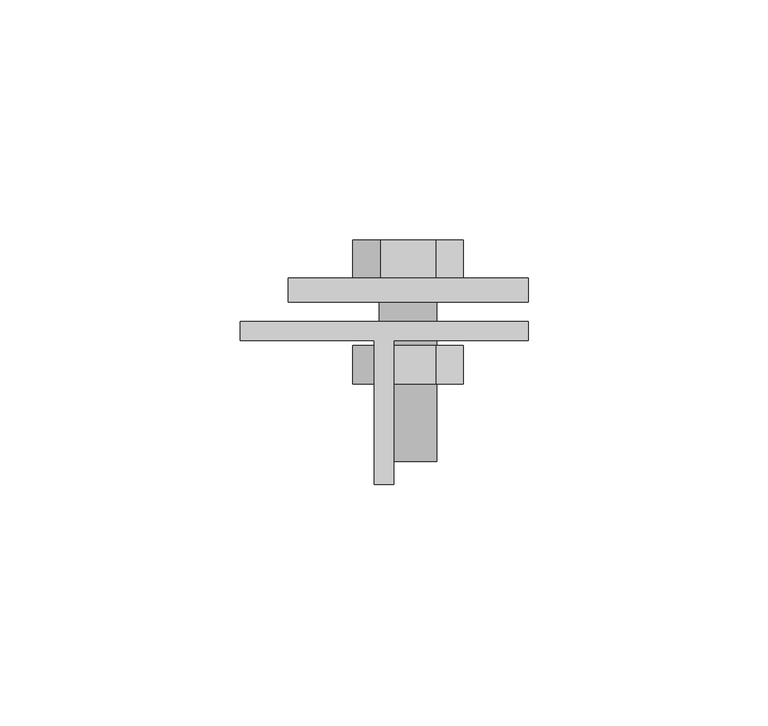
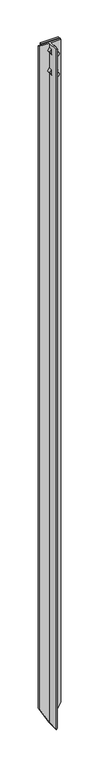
"""IFC4 building model written with IfcOpenShell, lengths in millimetres: proxy geometry, КНС_ЗаземлительВертикальныйПрофильный_DKC : NE1105_Горячеоцинкованная сталь_2м."""

from ifc_helpers import new_model, si_unit, frame, origin, place, context, project, spatial, circle_curve, faceted_brep, source, transform, mapped, element, save
from ifc_brep_helpers import plane_surface, cylinder_surface, advanced_brep


def security_devices_2d18d4dd(model_context):
    return source(origin(), model_context, "Body", "SolidModel", [
        advanced_brep(
        [(-20.0, 9.0, 1900.0), (-20.0, 9.0, 2000.0), (30.0, 9.0, 2000.0), (30.0, 9.0, 1900.0), (-0.7735027, 9.0, 1990.0), (-6.5470054, 9.0, 1980.0), (-0.7735027, 9.0, 1970.0), (10.7735027, 9.0, 1970.0), (16.5470054, 9.0, 1980.0), (10.7735027, 9.0, 1990.0), (-0.7735027, 9.0, 1930.0), (-6.5470054, 9.0, 1920.0), (-0.7735027, 9.0, 1910.0), (10.7735027, 9.0, 1910.0), (16.5470054, 9.0, 1920.0), (10.7735027, 9.0, 1930.0), (11.0, -29.1588598, 1980.0), (-1.0, -29.1588598, 1980.0), (11.0, -29.1588598, 1920.0), (-1.0, -29.1588598, 1920.0), (-1.0, -13.0, 1980.0), (11.0, -13.0, 1980.0), (11.0, -5.0, 1980.0), (-1.0, -5.0, 1980.0), (-1.0, 4.0, 1980.0), (11.0, 4.0, 1980.0), (-1.0, -13.0, 1920.0), (11.0, -13.0, 1920.0), (11.0, -5.0, 1920.0), (-1.0, -5.0, 1920.0), (-1.0, 4.0, 1920.0), (11.0, 4.0, 1920.0), (-6.5470054, -5.0, 1980.0), (-0.7735027, -5.0, 1990.0), (10.7735027, -5.0, 1990.0), (16.5470054, -5.0, 1980.0), (10.7735027, -5.0, 1970.0), (-0.7735027, -5.0, 1970.0), (-6.5470054, -5.0, 1920.0), (-0.7735027, -5.0, 1930.0), (10.7735027, -5.0, 1930.0), (16.5470054, -5.0, 1920.0), (10.7735027, -5.0, 1910.0), (-0.7735027, -5.0, 1910.0), (-6.5470054, -13.0, 1980.0), (-0.7735027, -13.0, 1970.0), (10.7735027, -13.0, 1970.0), (16.5470054, -13.0, 1980.0), (10.7735027, -13.0, 1990.0), (-0.7735027, -13.0, 1990.0), (-6.5470054, -13.0, 1920.0), (-0.7735027, -13.0, 1910.0), (10.7735027, -13.0, 1910.0), (16.5470054, -13.0, 1920.0), (10.7735027, -13.0, 1930.0), (-0.7735027, -13.0, 1930.0), (-20.0, 4.0, 1900.0), (30.0, 4.0, 1900.0), (30.0, 4.0, 2000.0), (-20.0, 4.0, 2000.0), (-6.5470054, 17.0, 1980.0), (-0.7735027, 17.0, 1990.0), (10.7735027, 17.0, 1990.0), (16.5470054, 17.0, 1980.0), (10.7735027, 17.0, 1970.0), (-0.7735027, 17.0, 1970.0), (-6.5470054, 17.0, 1920.0), (-0.7735027, 17.0, 1930.0), (10.7735027, 17.0, 1930.0), (16.5470054, 17.0, 1920.0), (10.7735027, 17.0, 1910.0), (-0.7735027, 17.0, 1910.0)],
        [
            (0, 1),
            (1, 2),
            (2, 3),
            (3, 0),
            (4, 5),
            (5, 6),
            (6, 7),
            (7, 8),
            (8, 9),
            (9, 4),
            (10, 11),
            (11, 12),
            (12, 13),
            (13, 14),
            (14, 15),
            (15, 10),
            (16, 17, circle_curve(frame((5.0, -29.1588598, 1980.0), z_axis=(0.0, -1.0, 0.0), x_axis=(-1.0, 0.0, 0.0)), 6.0)),
            (17, 16, circle_curve(frame((5.0, -29.1588598, 1980.0), z_axis=(0.0, -1.0, 0.0), x_axis=(-1.0, 0.0, 0.0)), 6.0)),
            (18, 19, circle_curve(frame((5.0, -29.1588598, 1920.0), z_axis=(0.0, -1.0, 0.0), x_axis=(-1.0, 0.0, 0.0)), 6.0)),
            (19, 18, circle_curve(frame((5.0, -29.1588598, 1920.0), z_axis=(0.0, -1.0, 0.0), x_axis=(-1.0, 0.0, 0.0)), 6.0)),
            (17, 20),
            (20, 21, circle_curve(frame((5.0, -13.0, 1980.0), z_axis=(0.0, -1.0, 0.0), x_axis=(-1.0, 0.0, 0.0)), 6.0)),
            (21, 16),
            (22, 23, circle_curve(frame((5.0, -5.0, 1980.0), z_axis=(0.0, 1.0, 0.0), x_axis=(-1.0, 0.0, 0.0)), 6.0)),
            (23, 24),
            (24, 25, circle_curve(frame((5.0, 4.0, 1980.0), z_axis=(0.0, -1.0, 0.0), x_axis=(-1.0, 0.0, 0.0)), 6.0)),
            (25, 22),
            (21, 20, circle_curve(frame((5.0, -13.0, 1980.0), z_axis=(0.0, -1.0, 0.0), x_axis=(-1.0, 0.0, 0.0)), 6.0)),
            (23, 22, circle_curve(frame((5.0, -5.0, 1980.0), z_axis=(0.0, 1.0, 0.0), x_axis=(-1.0, 0.0, 0.0)), 6.0)),
            (25, 24, circle_curve(frame((5.0, 4.0, 1980.0), z_axis=(0.0, -1.0, 0.0), x_axis=(-1.0, 0.0, 0.0)), 6.0)),
            (19, 26),
            (26, 27, circle_curve(frame((5.0, -13.0, 1920.0), z_axis=(0.0, -1.0, 0.0), x_axis=(-1.0, 0.0, 0.0)), 6.0)),
            (27, 18),
            (28, 29, circle_curve(frame((5.0, -5.0, 1920.0), z_axis=(0.0, 1.0, 0.0), x_axis=(-1.0, 0.0, 0.0)), 6.0)),
            (29, 30),
            (30, 31, circle_curve(frame((5.0, 4.0, 1920.0), z_axis=(0.0, -1.0, 0.0), x_axis=(-1.0, 0.0, 0.0)), 6.0)),
            (31, 28),
            (27, 26, circle_curve(frame((5.0, -13.0, 1920.0), z_axis=(0.0, -1.0, 0.0), x_axis=(-1.0, 0.0, 0.0)), 6.0)),
            (29, 28, circle_curve(frame((5.0, -5.0, 1920.0), z_axis=(0.0, 1.0, 0.0), x_axis=(-1.0, 0.0, 0.0)), 6.0)),
            (31, 30, circle_curve(frame((5.0, 4.0, 1920.0), z_axis=(0.0, -1.0, 0.0), x_axis=(-1.0, 0.0, 0.0)), 6.0)),
            (32, 33),
            (33, 34),
            (34, 35),
            (35, 36),
            (36, 37),
            (37, 32),
            (38, 39),
            (39, 40),
            (40, 41),
            (41, 42),
            (42, 43),
            (43, 38),
            (44, 45),
            (45, 46),
            (46, 47),
            (47, 48),
            (48, 49),
            (49, 44),
            (50, 51),
            (51, 52),
            (52, 53),
            (53, 54),
            (54, 55),
            (55, 50),
            (32, 44),
            (49, 33),
            (48, 34),
            (47, 35),
            (46, 36),
            (45, 37),
            (38, 50),
            (55, 39),
            (54, 40),
            (53, 41),
            (52, 42),
            (51, 43),
            (56, 57),
            (57, 58),
            (58, 59),
            (59, 56),
            (0, 56),
            (59, 1),
            (58, 2),
            (57, 3),
            (60, 61),
            (61, 62),
            (62, 63),
            (63, 64),
            (64, 65),
            (65, 60),
            (66, 67),
            (67, 68),
            (68, 69),
            (69, 70),
            (70, 71),
            (71, 66),
            (60, 5),
            (4, 61),
            (9, 62),
            (8, 63),
            (7, 64),
            (6, 65),
            (66, 11),
            (10, 67),
            (15, 68),
            (14, 69),
            (13, 70),
            (12, 71),
        ],
        [
            plane_surface(frame((-1.0, 9.0, 1980.0), z_axis=(0.0, 1.0, 0.0), x_axis=(0.0, 0.0, 1.0))),
            plane_surface(frame((-1.0, -29.1588598, 1980.0), z_axis=(0.0, -1.0, 0.0), x_axis=(0.0, 0.0, -1.0))),
            cylinder_surface(frame((5.0, -29.1588598, 1980.0), z_axis=(0.0, 1.0, 0.0), x_axis=(-1.0, 0.0, 0.0)), 6.0),
            cylinder_surface(frame((5.0, 4.0, 1920.0), z_axis=(0.0, 1.0, 0.0), x_axis=(-1.0, 0.0, 0.0)), 6.0),
            plane_surface(frame((-6.5470054, -5.0, 1980.0), z_axis=(0.0, 1.0, 0.0), x_axis=(0.4999999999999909, 0.0, 0.8660254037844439))),
            plane_surface(frame((-6.5470054, -13.0, 1980.0), z_axis=(0.0, -1.0, 0.0), x_axis=(-0.4999999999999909, 0.0, -0.8660254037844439))),
            plane_surface(frame((-6.5470054, -5.0, 1980.0), z_axis=(-0.8660254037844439, 0.0, 0.4999999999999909), x_axis=(0.0, -1.0, 0.0))),
            plane_surface(frame((-0.7735027, -5.0, 1990.0), z_axis=(0.0, 0.0, 1.0), x_axis=(0.0, -1.0, 0.0))),
            plane_surface(frame((10.7735027, -5.0, 1990.0), z_axis=(0.8660254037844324, 0.0, 0.5000000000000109), x_axis=(0.0, -1.0, 0.0))),
            plane_surface(frame((16.5470054, -5.0, 1980.0), z_axis=(0.8660254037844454, 0.0, -0.4999999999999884), x_axis=(0.0, -1.0, 0.0))),
            plane_surface(frame((10.7735027, -5.0, 1970.0), z_axis=(0.0, 0.0, -1.0), x_axis=(0.0, -1.0, 0.0))),
            plane_surface(frame((-0.7735027, -5.0, 1970.0), z_axis=(-0.8660254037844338, 0.0, -0.5000000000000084), x_axis=(0.0, -1.0, 0.0))),
            plane_surface(frame((-6.5470054, -5.0, 1920.0), z_axis=(-0.8660254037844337, 0.0, 0.5000000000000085), x_axis=(0.0, -1.0, 0.0))),
            plane_surface(frame((-0.7735027, -5.0, 1930.0), z_axis=(0.0, 0.0, 1.0), x_axis=(0.0, -1.0, 0.0))),
            plane_surface(frame((10.7735027, -5.0, 1930.0), z_axis=(0.8660254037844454, 0.0, 0.4999999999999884), x_axis=(0.0, -1.0, 0.0))),
            plane_surface(frame((16.5470054, -5.0, 1920.0), z_axis=(0.8660254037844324, 0.0, -0.5000000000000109), x_axis=(0.0, -1.0, 0.0))),
            plane_surface(frame((10.7735027, -5.0, 1910.0), z_axis=(0.0, 0.0, -1.0), x_axis=(0.0, -1.0, 0.0))),
            plane_surface(frame((-0.7735027, -5.0, 1910.0), z_axis=(-0.8660254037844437, 0.0, -0.4999999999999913), x_axis=(0.0, -1.0, 0.0))),
            plane_surface(frame((-20.0, 4.0, 1900.0), z_axis=(0.0, -1.0, 0.0), x_axis=(0.0, 0.0, -1.0))),
            plane_surface(frame((-20.0, 9.0, 1900.0), z_axis=(-1.0, 0.0, 0.0), x_axis=(0.0, -1.0, 0.0))),
            plane_surface(frame((-20.0, 9.0, 2000.0), z_axis=(0.0, 0.0, 1.0), x_axis=(0.0, -1.0, 0.0))),
            plane_surface(frame((30.0, 9.0, 2000.0), z_axis=(1.0, 0.0, 0.0), x_axis=(0.0, -1.0, 0.0))),
            plane_surface(frame((30.0, 9.0, 1900.0), z_axis=(0.0, 0.0, -1.0), x_axis=(0.0, -1.0, 0.0))),
            plane_surface(frame((-6.5470054, 17.0, 1980.0), z_axis=(0.0, 1.0, 0.0), x_axis=(0.4999999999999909, 0.0, 0.8660254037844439))),
            plane_surface(frame((-6.5470054, 17.0, 1980.0), z_axis=(-0.8660254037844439, 0.0, 0.4999999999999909), x_axis=(0.0, -1.0, 0.0))),
            plane_surface(frame((-0.7735027, 17.0, 1990.0), z_axis=(0.0, 0.0, 1.0), x_axis=(0.0, -1.0, 0.0))),
            plane_surface(frame((10.7735027, 17.0, 1990.0), z_axis=(0.8660254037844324, 0.0, 0.5000000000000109), x_axis=(0.0, -1.0, 0.0))),
            plane_surface(frame((16.5470054, 17.0, 1980.0), z_axis=(0.8660254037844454, 0.0, -0.4999999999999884), x_axis=(0.0, -1.0, 0.0))),
            plane_surface(frame((10.7735027, 17.0, 1970.0), z_axis=(0.0, 0.0, -1.0), x_axis=(0.0, -1.0, 0.0))),
            plane_surface(frame((-0.7735027, 17.0, 1970.0), z_axis=(-0.8660254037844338, 0.0, -0.5000000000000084), x_axis=(0.0, -1.0, 0.0))),
            plane_surface(frame((-6.5470054, 17.0, 1920.0), z_axis=(-0.8660254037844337, 0.0, 0.5000000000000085), x_axis=(0.0, -1.0, 0.0))),
            plane_surface(frame((-0.7735027, 17.0, 1930.0), z_axis=(0.0, 0.0, 1.0), x_axis=(0.0, -1.0, 0.0))),
            plane_surface(frame((10.7735027, 17.0, 1930.0), z_axis=(0.8660254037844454, 0.0, 0.4999999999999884), x_axis=(0.0, -1.0, 0.0))),
            plane_surface(frame((16.5470054, 17.0, 1920.0), z_axis=(0.8660254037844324, 0.0, -0.5000000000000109), x_axis=(0.0, -1.0, 0.0))),
            plane_surface(frame((10.7735027, 17.0, 1910.0), z_axis=(0.0, 0.0, -1.0), x_axis=(0.0, -1.0, 0.0))),
            plane_surface(frame((-0.7735027, 17.0, 1910.0), z_axis=(-0.8660254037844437, 0.0, -0.4999999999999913), x_axis=(0.0, -1.0, 0.0))),
        ],
        [
            (0, [[1, 2, 3, 4], [5, 6, 7, 8, 9, 10], [11, 12, 13, 14, 15, 16]]),
            (1, [[17, 18]]),
            (1, [[19, 20]]),
            (2, [[-18, 21, 22, 23]]),
            (2, [[24, 25, 26, 27]]),
            (2, [[-17, -23, 28, -21]]),
            (2, [[29, -27, 30, -25]]),
            (3, [[-20, 31, 32, 33]]),
            (3, [[34, 35, 36, 37]]),
            (3, [[-19, -33, 38, -31]]),
            (3, [[39, -37, 40, -35]]),
            (4, [[41, 42, 43, 44, 45, 46], [-24, -29]]),
            (4, [[47, 48, 49, 50, 51, 52], [-34, -39]]),
            (5, [[53, 54, 55, 56, 57, 58], [-22, -28]]),
            (5, [[59, 60, 61, 62, 63, 64], [-32, -38]]),
            (6, [[-41, 65, -58, 66]]),
            (7, [[-42, -66, -57, 67]]),
            (8, [[-43, -67, -56, 68]]),
            (9, [[-44, -68, -55, 69]]),
            (10, [[-45, -69, -54, 70]]),
            (11, [[-46, -70, -53, -65]]),
            (12, [[-47, 71, -64, 72]]),
            (13, [[-48, -72, -63, 73]]),
            (14, [[-49, -73, -62, 74]]),
            (15, [[-50, -74, -61, 75]]),
            (16, [[-51, -75, -60, 76]]),
            (17, [[-52, -76, -59, -71]]),
            (18, [[77, 78, 79, 80], [-26, -30], [-36, -40]]),
            (19, [[-1, 81, -80, 82]]),
            (20, [[-2, -82, -79, 83]]),
            (21, [[-3, -83, -78, 84]]),
            (22, [[-4, -84, -77, -81]]),
            (23, [[85, 86, 87, 88, 89, 90]]),
            (23, [[91, 92, 93, 94, 95, 96]]),
            (24, [[-85, 97, -5, 98]]),
            (25, [[-86, -98, -10, 99]]),
            (26, [[-87, -99, -9, 100]]),
            (27, [[-88, -100, -8, 101]]),
            (28, [[-89, -101, -7, 102]]),
            (29, [[-90, -102, -6, -97]]),
            (30, [[-91, 103, -11, 104]]),
            (31, [[-92, -104, -16, 105]]),
            (32, [[-93, -105, -15, 106]]),
            (33, [[-94, -106, -14, 107]]),
            (34, [[-95, -107, -13, 108]]),
            (35, [[-96, -108, -12, -103]]),
        ],
    ),
        faceted_brep([(30.0, 0.0, 2000.0), (-30.0, 0.0, 2000.0), (-30.0, -4.0, 2000.0), (-2.0, -4.0, 2000.0), (-2.0, -34.0, 2000.0), (2.0, -34.0, 2000.0), (2.0, -4.0, 2000.0), (30.0, -4.0, 2000.0), (30.0, 0.0, 51.9615242), (0.0, 0.0, 0.0), (-30.0, 0.0, 51.9615242), (-30.0, -4.0, 51.9615242), (-2.0, -4.0, 3.4641016), (-2.0, -34.0, 3.4641016), (0.0, -34.0, 0.0), (2.0, -34.0, 3.4641016), (2.0, -4.0, 3.4641016), (30.0, -4.0, 51.9615242)], [[[0, 1, 2, 3, 4, 5, 6, 7]], [[1, 0, 8, 9, 10]], [[2, 1, 10, 11]], [[3, 2, 11, 12]], [[4, 3, 12, 13]], [[5, 4, 13, 14, 15]], [[6, 5, 15, 16]], [[7, 6, 16, 17]], [[0, 7, 17, 8]], [[9, 8, 17, 16, 15, 14]], [[10, 9, 14, 13, 12, 11]]]),
    ])


if __name__ == "__main__":
    model = new_model("IFC4")
    model_context = context("Model", 3, world=origin())
    ifc_project = project(units=[si_unit("LENGTHUNIT", "METRE", prefix="MILLI")], contexts=[model_context])
    site = spatial("IfcSite", under=ifc_project)
    building = spatial("IfcBuilding", under=site)
    placement = place(None, origin())
    security_devices_shape = security_devices_2d18d4dd(model_context)
    element("IfcBuildingElementProxy", 1, Name="КНС_ЗаземлительВертикальныйПрофильный_DKC : NE1105_Горячеоцинкованная сталь_2м", ObjectType="КНС_ЗаземлительВертикальныйПрофильный_DKC : NE1105_Горячеоцинкованная сталь_2м", at=placement, inside=building, context=model_context, shape_type="MappedRepresentation", body=[
        mapped(security_devices_shape, transform((0.0, 0.0, 0.0), x_axis=(1.0, 0.0, 0.0), y_axis=(0.0, 1.0, 0.0), z_axis=(0.0, 0.0, 1.0))),
    ])
    save(model, "model.ifc")
